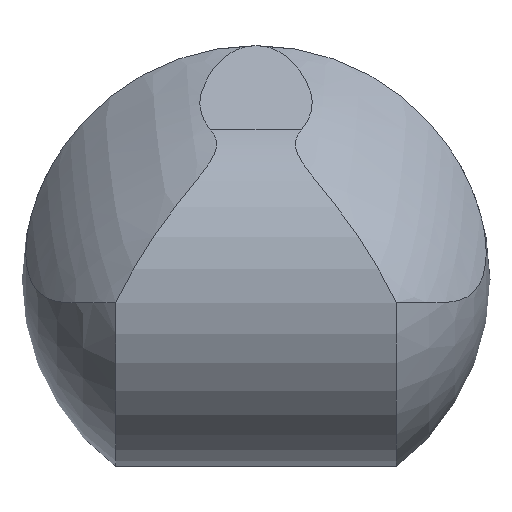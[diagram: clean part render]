
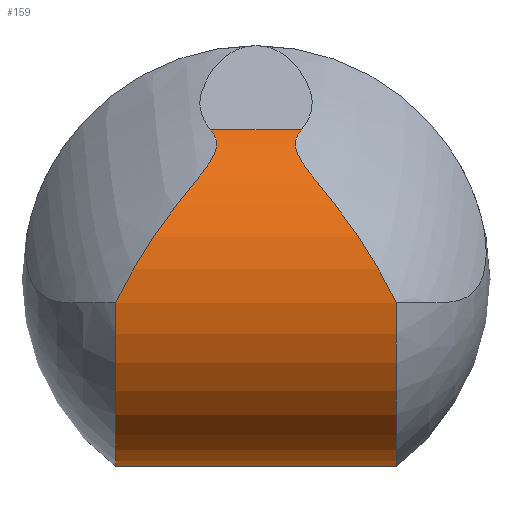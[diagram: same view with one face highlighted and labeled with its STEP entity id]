
A CAD part, front view. The second image highlights one B-rep face of the part: STEP entity #159.
In plain terms, the highlighted cylindrical face has radius 40 mm (diameter 80 mm), a partial arc.
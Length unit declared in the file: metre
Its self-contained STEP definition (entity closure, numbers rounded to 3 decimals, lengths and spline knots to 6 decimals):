
#17=LINE('',#1008,#19);
#18=LINE('',#1042,#20);
#19=VECTOR('',#199,1.);
#20=VECTOR('',#202,1.);
#21=CYLINDRICAL_SURFACE('',#183,0.04);
#22=CIRCLE('',#181,0.04);
#24=CIRCLE('',#184,0.04);
#30=FACE_OUTER_BOUND('',#39,.T.);
#39=EDGE_LOOP('',(#116,#117,#118,#119,#120,#121,#122,#123));
#48=B_SPLINE_CURVE_WITH_KNOTS('',3,(#865,#866,#867,#868,#869,#870,#871,
#872,#873,#874,#875,#876,#877,#878),.UNSPECIFIED.,.F.,.F.,(4,2,2,2,2,2,
4),(-2.14109,-1.749088,-1.362707,-0.882189,
-0.536691,-0.297048,-0.000003),
 .UNSPECIFIED.);
#53=B_SPLINE_CURVE_WITH_KNOTS('',3,(#1010,#1011,#1012,#1013,#1014,#1015,
#1016,#1017,#1018,#1019,#1020,#1021,#1022,#1023),.UNSPECIFIED.,.F.,.F.,
(4,2,2,2,2,2,4),(-2.14109,-1.749088,-1.362707,
-0.882189,-0.536691,-0.297048,-0.000003),
 .UNSPECIFIED.);
#54=B_SPLINE_CURVE_WITH_KNOTS('',3,(#1027,#1028,#1029,#1030,#1031,#1032,
#1033,#1034,#1035,#1036,#1037,#1038,#1039,#1040),.UNSPECIFIED.,.F.,.F.,
(4,2,2,2,2,2,4),(-2.14109,-1.749088,-1.362707,-0.882189,
-0.536691,-0.297048,-0.000003),
 .UNSPECIFIED.);
#55=B_SPLINE_CURVE_WITH_KNOTS('',3,(#1043,#1044,#1045,#1046,#1047,#1048,
#1049,#1050,#1051,#1052,#1053,#1054,#1055,#1056),.UNSPECIFIED.,.F.,.F.,
(4,2,2,2,2,2,4),(-2.14109,-1.749088,-1.362707,
-0.882189,-0.536691,-0.297048,-0.000003),
 .UNSPECIFIED.);
#66=VERTEX_POINT('',#849);
#67=VERTEX_POINT('',#864);
#70=VERTEX_POINT('',#956);
#72=VERTEX_POINT('',#1007);
#73=VERTEX_POINT('',#1009);
#74=VERTEX_POINT('',#1024);
#75=VERTEX_POINT('',#1026);
#76=VERTEX_POINT('',#1041);
#83=EDGE_CURVE('',#67,#66,#48,.T.);
#87=EDGE_CURVE('',#67,#70,#22,.T.);
#90=EDGE_CURVE('',#66,#72,#17,.T.);
#91=EDGE_CURVE('',#73,#72,#53,.T.);
#92=EDGE_CURVE('',#73,#74,#24,.T.);
#93=EDGE_CURVE('',#74,#75,#54,.T.);
#94=EDGE_CURVE('',#76,#75,#18,.T.);
#95=EDGE_CURVE('',#70,#76,#55,.T.);
#116=ORIENTED_EDGE('',*,*,#90,.T.);
#117=ORIENTED_EDGE('',*,*,#91,.F.);
#118=ORIENTED_EDGE('',*,*,#92,.T.);
#119=ORIENTED_EDGE('',*,*,#93,.T.);
#120=ORIENTED_EDGE('',*,*,#94,.F.);
#121=ORIENTED_EDGE('',*,*,#95,.F.);
#122=ORIENTED_EDGE('',*,*,#87,.F.);
#123=ORIENTED_EDGE('',*,*,#83,.T.);
#159=ADVANCED_FACE('',(#30),#21,.T.);
#181=AXIS2_PLACEMENT_3D('',#957,#193,#194);
#183=AXIS2_PLACEMENT_3D('',#1006,#197,#198);
#184=AXIS2_PLACEMENT_3D('',#1025,#200,#201);
#193=DIRECTION('center_axis',(1.,0.,0.));
#194=DIRECTION('ref_axis',(0.,0.,-1.));
#197=DIRECTION('center_axis',(-1.,0.,0.));
#198=DIRECTION('ref_axis',(0.,0.,-1.));
#199=DIRECTION('',(-1.,0.,0.));
#200=DIRECTION('center_axis',(1.,0.,0.));
#201=DIRECTION('ref_axis',(0.,0.,-1.));
#202=DIRECTION('',(-1.,0.,0.));
#849=CARTESIAN_POINT('',(0.009693,-0.024,0.032));
#864=CARTESIAN_POINT('',(0.03,-0.0397,-0.004893));
#865=CARTESIAN_POINT('Ctrl Pts',(0.03,-0.0397,
-0.004893));
#866=CARTESIAN_POINT('Ctrl Pts',(0.028179,-0.040147,
-0.001264));
#867=CARTESIAN_POINT('Ctrl Pts',(0.026257,-0.040085,
0.002271));
#868=CARTESIAN_POINT('Ctrl Pts',(0.022041,-0.039108,
0.009063));
#869=CARTESIAN_POINT('Ctrl Pts',(0.019791,-0.038212,
0.012265));
#870=CARTESIAN_POINT('Ctrl Pts',(0.014627,-0.035432,
0.018997));
#871=CARTESIAN_POINT('Ctrl Pts',(0.012002,-0.033528,
0.022013));
#872=CARTESIAN_POINT('Ctrl Pts',(0.009192,-0.030434,
0.026044));
#873=CARTESIAN_POINT('Ctrl Pts',(0.008668,-0.029351,
0.027209));
#874=CARTESIAN_POINT('Ctrl Pts',(0.008365,-0.027731,
0.028842));
#875=CARTESIAN_POINT('Ctrl Pts',(0.008395,-0.027059,
0.029473));
#876=CARTESIAN_POINT('Ctrl Pts',(0.00881,-0.025492,
0.030846));
#877=CARTESIAN_POINT('Ctrl Pts',(0.009246,-0.024707,
0.03147));
#878=CARTESIAN_POINT('Ctrl Pts',(0.009693,-0.024,
0.032));
#956=CARTESIAN_POINT('',(0.03,0.0397,-0.004893));
#957=CARTESIAN_POINT('Origin',(0.03,0.,0.));
#1006=CARTESIAN_POINT('Origin',(0.05,0.,0.));
#1007=CARTESIAN_POINT('',(-0.009693,-0.024,0.032));
#1008=CARTESIAN_POINT('',(0.05,-0.024,0.032));
#1009=CARTESIAN_POINT('',(-0.03,-0.0397,-0.004893));
#1010=CARTESIAN_POINT('Ctrl Pts',(-0.03,-0.0397,
-0.004893));
#1011=CARTESIAN_POINT('Ctrl Pts',(-0.028179,-0.040147,
-0.001264));
#1012=CARTESIAN_POINT('Ctrl Pts',(-0.026257,-0.040085,
0.002271));
#1013=CARTESIAN_POINT('Ctrl Pts',(-0.022041,-0.039108,
0.009063));
#1014=CARTESIAN_POINT('Ctrl Pts',(-0.019791,-0.038212,
0.012265));
#1015=CARTESIAN_POINT('Ctrl Pts',(-0.014627,-0.035432,
0.018997));
#1016=CARTESIAN_POINT('Ctrl Pts',(-0.012002,-0.033528,
0.022013));
#1017=CARTESIAN_POINT('Ctrl Pts',(-0.009192,-0.030434,
0.026044));
#1018=CARTESIAN_POINT('Ctrl Pts',(-0.008668,-0.029351,
0.027209));
#1019=CARTESIAN_POINT('Ctrl Pts',(-0.008365,-0.027731,
0.028842));
#1020=CARTESIAN_POINT('Ctrl Pts',(-0.008395,-0.027059,
0.029473));
#1021=CARTESIAN_POINT('Ctrl Pts',(-0.00881,-0.025492,
0.030846));
#1022=CARTESIAN_POINT('Ctrl Pts',(-0.009246,-0.024707,
0.03147));
#1023=CARTESIAN_POINT('Ctrl Pts',(-0.009693,-0.024,
0.032));
#1024=CARTESIAN_POINT('',(-0.03,0.0397,-0.004893));
#1025=CARTESIAN_POINT('Origin',(-0.03,0.,0.));
#1026=CARTESIAN_POINT('',(-0.009693,0.024,0.032));
#1027=CARTESIAN_POINT('Ctrl Pts',(-0.03,0.0397,
-0.004893));
#1028=CARTESIAN_POINT('Ctrl Pts',(-0.028179,0.040147,
-0.001264));
#1029=CARTESIAN_POINT('Ctrl Pts',(-0.026257,0.040085,
0.002271));
#1030=CARTESIAN_POINT('Ctrl Pts',(-0.022041,0.039108,
0.009063));
#1031=CARTESIAN_POINT('Ctrl Pts',(-0.019791,0.038212,
0.012265));
#1032=CARTESIAN_POINT('Ctrl Pts',(-0.014627,0.035432,
0.018997));
#1033=CARTESIAN_POINT('Ctrl Pts',(-0.012002,0.033528,
0.022013));
#1034=CARTESIAN_POINT('Ctrl Pts',(-0.009192,0.030434,
0.026044));
#1035=CARTESIAN_POINT('Ctrl Pts',(-0.008668,0.029351,
0.027209));
#1036=CARTESIAN_POINT('Ctrl Pts',(-0.008365,0.027731,
0.028842));
#1037=CARTESIAN_POINT('Ctrl Pts',(-0.008395,0.027059,
0.029473));
#1038=CARTESIAN_POINT('Ctrl Pts',(-0.00881,0.025492,
0.030846));
#1039=CARTESIAN_POINT('Ctrl Pts',(-0.009246,0.024707,
0.03147));
#1040=CARTESIAN_POINT('Ctrl Pts',(-0.009693,0.024,
0.032));
#1041=CARTESIAN_POINT('',(0.009693,0.024,0.032));
#1042=CARTESIAN_POINT('',(0.05,0.024,0.032));
#1043=CARTESIAN_POINT('Ctrl Pts',(0.03,0.0397,
-0.004893));
#1044=CARTESIAN_POINT('Ctrl Pts',(0.028179,0.040147,
-0.001264));
#1045=CARTESIAN_POINT('Ctrl Pts',(0.026257,0.040085,
0.002271));
#1046=CARTESIAN_POINT('Ctrl Pts',(0.022041,0.039108,
0.009063));
#1047=CARTESIAN_POINT('Ctrl Pts',(0.019791,0.038212,
0.012265));
#1048=CARTESIAN_POINT('Ctrl Pts',(0.014627,0.035432,
0.018997));
#1049=CARTESIAN_POINT('Ctrl Pts',(0.012002,0.033528,
0.022013));
#1050=CARTESIAN_POINT('Ctrl Pts',(0.009192,0.030434,
0.026044));
#1051=CARTESIAN_POINT('Ctrl Pts',(0.008668,0.029351,
0.027209));
#1052=CARTESIAN_POINT('Ctrl Pts',(0.008365,0.027731,
0.028842));
#1053=CARTESIAN_POINT('Ctrl Pts',(0.008395,0.027059,
0.029473));
#1054=CARTESIAN_POINT('Ctrl Pts',(0.00881,0.025492,
0.030846));
#1055=CARTESIAN_POINT('Ctrl Pts',(0.009246,0.024707,
0.03147));
#1056=CARTESIAN_POINT('Ctrl Pts',(0.009693,0.024,
0.032));
